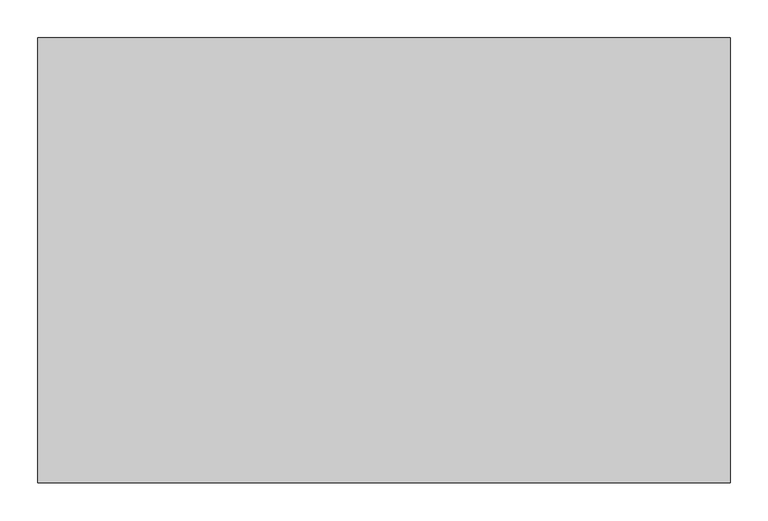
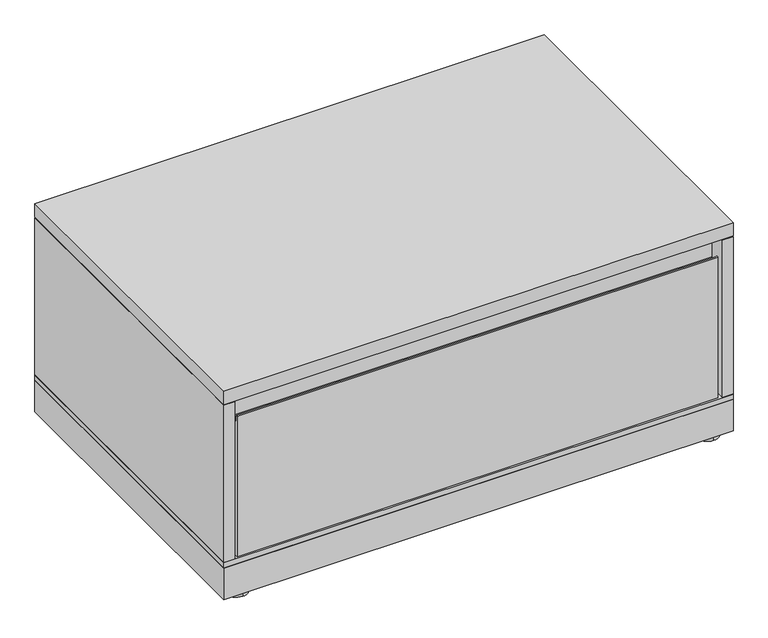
"""IFC4 building model written with IfcOpenShell, lengths in millimetres: furniture geometry, Steelcase - Universal Storage - Lateral File - 1 High - Flush Steel : Drawer - 23 1/8D x 36W."""

import ifcopenshell
import ifcopenshell.guid

model = None  # the IFC model being written
_history = None  # IfcOwnerHistory: only IFC2X3 demands one
_inside = {}  # id of a spatial element -> (the spatial element, [elements in it])
_under = {}  # id of a project, library or spatial element -> (it, [spatial elements below it])
_declared = {}  # id of a project -> (the project, [libraries it declares])
_typed = {}  # id of a type object -> (the type object, [elements of that type])
_made_of = {}  # id of a material, layer set ... -> (it, [elements and type objects made of it])


def new_model(schema):
    """Start an empty IFC model of exactly this schema.

    Asked for "IFC4X3", IfcOpenShell would pick the latest addendum, in which some entities
    have other attributes; the version numbers below select the first issue.
    IFC2X3 requires an IfcOwnerHistory on every rooted entity: one is made here for all.
    """
    global model, _history
    if schema == "IFC4X3":
        model = ifcopenshell.file(schema_version=(4, 3, 0, 0))
    else:
        model = ifcopenshell.file(schema=schema)
    _inside.clear()
    _under.clear()
    _declared.clear()
    _typed.clear()
    _made_of.clear()
    _history = None
    if model.schema == "IFC2X3":
        org = make("IfcOrganization", Name="unknown")
        user = make(
            "IfcPersonAndOrganization",
            ThePerson=make("IfcPerson", FamilyName="unknown"),
            TheOrganization=org,
        )
        app = make(
            "IfcApplication",
            ApplicationDeveloper=org,
            Version="unknown",
            ApplicationFullName="unknown",
            ApplicationIdentifier="unknown",
        )
        _history = make(
            "IfcOwnerHistory",
            OwningUser=user,
            OwningApplication=app,
            ChangeAction="ADDED",
            CreationDate=0,
        )
    return model


def make(cls, **values):
    """One entity of the class cls with the attributes given. An attribute that is None is left unset."""
    return model.create_entity(
        cls, **{name: value for name, value in values.items() if value is not None}
    )


def rooted(cls, **values):
    """An entity with a GlobalId (a new one), such as an element, a storey or a relation."""
    return make(cls, GlobalId=ifcopenshell.guid.new(), OwnerHistory=_history, **values)


def si_unit(unit_type, name, prefix=None):
    """IfcSIUnit, for example si_unit("LENGTHUNIT", "METRE", prefix="MILLI")."""
    return make("IfcSIUnit", UnitType=unit_type, Prefix=prefix, Name=name)


def assignment(units):
    """IfcUnitAssignment: the units of a project."""
    return None if units is None else make("IfcUnitAssignment", Units=units)


def point(xyz):
    """IfcCartesianPoint."""
    return None if xyz is None else make("IfcCartesianPoint", Coordinates=xyz)


def direction(xyz):
    """IfcDirection."""
    return None if xyz is None else make("IfcDirection", DirectionRatios=xyz)


def frame(location, z_axis=None, x_axis=None):
    """IfcAxis2Placement3D, a coordinate frame: its origin and axes. An axis left out is left unset."""
    return make(
        "IfcAxis2Placement3D",
        Location=point(location),
        Axis=direction(z_axis),
        RefDirection=direction(x_axis),
    )


def frame_2d(location, x_axis=None):
    """IfcAxis2Placement2D, a coordinate frame in the plane: its origin and x axis."""
    return make(
        "IfcAxis2Placement2D", Location=point(location), RefDirection=direction(x_axis)
    )


def origin():
    """The frame at (0, 0, 0) with its axes left unset."""
    return frame((0.0, 0.0, 0.0))


def origin_with_axes():
    """The frame at (0, 0, 0) with the z axis (0, 0, 1) and the x axis (1, 0, 0) written out."""
    return frame((0.0, 0.0, 0.0), z_axis=(0.0, 0.0, 1.0), x_axis=(1.0, 0.0, 0.0))


def place(relative_to, where):
    """IfcLocalPlacement: puts the frame where relative to a parent placement (None: the world)."""
    return make(
        "IfcLocalPlacement", PlacementRelTo=relative_to, RelativePlacement=where
    )


def context(
    kind, dimensions, precision=None, world=None, true_north=None, identifier=None
):
    """IfcGeometricRepresentationContext, for example the 3D "Model" context."""
    return make(
        "IfcGeometricRepresentationContext",
        ContextIdentifier=identifier,
        ContextType=kind,
        CoordinateSpaceDimension=dimensions,
        Precision=precision,
        WorldCoordinateSystem=world,
        TrueNorth=true_north,
    )


def project(units=None, contexts=None):
    """IfcProject with its units and contexts."""
    return rooted(
        "IfcProject",
        Name="project",
        RepresentationContexts=contexts,
        UnitsInContext=assignment(units),
    )


def spatial(cls, under=None, at=None, **own):
    """A site, building, storey or space (cls), placed at a placement, below another one or the project."""
    s = rooted(cls, ObjectPlacement=at, **own)
    if under is not None:
        _under.setdefault(under.id(), (under, []))[1].append(s)
    return s


def polyline(points):
    """IfcPolyline through the points."""
    return make("IfcPolyline", Points=[point(p) for p in points])


def circle_curve(where, radius):
    """IfcCircle in the frame where."""
    return make("IfcCircle", Position=where, Radius=radius)


def trimmed(basis, trim1, trim2, sense, master):
    """IfcTrimmedCurve: the piece of a basis curve between two trims."""
    return make(
        "IfcTrimmedCurve",
        BasisCurve=basis,
        Trim1=trim1,
        Trim2=trim2,
        SenseAgreement=sense,
        MasterRepresentation=master,
    )


def segment(curve, same_sense, transition):
    """IfcCompositeCurveSegment."""
    return make(
        "IfcCompositeCurveSegment",
        Transition=transition,
        SameSense=same_sense,
        ParentCurve=curve,
    )


def composite_curve(segments, self_intersect=None):
    """IfcCompositeCurve: segments joined end to end."""
    return make("IfcCompositeCurve", Segments=segments, SelfIntersect=self_intersect)


def outline(outer, holes=None, kind="AREA"):
    """IfcArbitraryClosedProfileDef: a profile drawn as a closed curve; with holes, ...WithVoids."""
    if holes is None:
        return make("IfcArbitraryClosedProfileDef", ProfileType=kind, OuterCurve=outer)
    return make(
        "IfcArbitraryProfileDefWithVoids",
        ProfileType=kind,
        OuterCurve=outer,
        InnerCurves=holes,
    )


def extrude(swept, where, along, depth):
    """IfcExtrudedAreaSolid: the profile swept, set in the frame where, extruded along a direction by depth."""
    return make(
        "IfcExtrudedAreaSolid",
        SweptArea=swept,
        Position=where,
        ExtrudedDirection=direction(along),
        Depth=depth,
    )


def shape(context_of_items, identifier, shape_type, items):
    """IfcShapeRepresentation: the items that make up one representation, for example the "Body"."""
    return make(
        "IfcShapeRepresentation",
        ContextOfItems=context_of_items,
        RepresentationIdentifier=identifier,
        RepresentationType=shape_type,
        Items=items,
    )


def source(mapping_origin, context_of_items, identifier, shape_type, items):
    """IfcRepresentationMap: a shape defined once, which mapped items show again and again."""
    return make(
        "IfcRepresentationMap",
        MappingOrigin=mapping_origin,
        MappedRepresentation=shape(context_of_items, identifier, shape_type, items),
    )


def transform(
    local_origin,
    x_axis=None,
    y_axis=None,
    z_axis=None,
    scale=None,
    scale2=None,
    scale3=None,
    uniform=True,
):
    """IfcCartesianTransformationOperator3D, or its non-uniform kind. x_axis, y_axis, z_axis: its Axis1, 2, 3."""
    if uniform:
        return make(
            "IfcCartesianTransformationOperator3D",
            Axis1=direction(x_axis),
            Axis2=direction(y_axis),
            LocalOrigin=point(local_origin),
            Scale=scale,
            Axis3=direction(z_axis),
        )
    return make(
        "IfcCartesianTransformationOperator3DnonUniform",
        Axis1=direction(x_axis),
        Axis2=direction(y_axis),
        LocalOrigin=point(local_origin),
        Scale=scale,
        Axis3=direction(z_axis),
        Scale2=scale2,
        Scale3=scale3,
    )


def mapped(mapping_source, mapping_target):
    """IfcMappedItem: shows the shape of a source again, moved by a transform."""
    return make(
        "IfcMappedItem", MappingSource=mapping_source, MappingTarget=mapping_target
    )


def made_of(thing, what):
    """Note that an element or type object is made of a material, layer set ...; save() writes the relation."""
    if what is not None:
        _made_of.setdefault(what.id(), (what, []))[1].append(thing)
    return thing


def element(
    cls,
    number,
    at=None,
    inside=None,
    cuts=None,
    type_object=None,
    material=None,
    context=None,
    identifier="Body",
    shape_type=None,
    held_by="IfcProductDefinitionShape",
    body=None,
    shapes=None,
    **own,
):
    """One element of the class cls, such as IfcWall. Its Tag is "e" and its number.

    at: its placement. inside: the storey or other place that contains it. cuts: it is an
    opening in that element (IfcRelVoidsElement). A single representation is given by context,
    identifier, shape_type and body (its items); several are given by shapes. held_by: the class
    of the entity that holds the representations. save() writes the other relations.
    """
    e = rooted(cls, Tag="e%d" % number, ObjectPlacement=at, **own)
    if body is not None:
        shapes = [shape(context, identifier, shape_type, body)]
    if shapes is not None:
        e.Representation = make(held_by, Representations=shapes)
    if inside is not None:
        _inside.setdefault(inside.id(), (inside, []))[1].append(e)
    if cuts is not None:
        rooted(
            "IfcRelVoidsElement", RelatingBuildingElement=cuts, RelatedOpeningElement=e
        )
    if type_object is not None:
        _typed.setdefault(type_object.id(), (type_object, []))[1].append(e)
    return made_of(e, material)


def aggregate(whole, parts):
    """IfcRelAggregates: a whole, such as a stair, and the parts it consists of."""
    return rooted("IfcRelAggregates", RelatingObject=whole, RelatedObjects=parts)


def save(model, path):
    """Write the relations noted so far, then the file.

    IfcRelAggregates (storeys below a building ...), IfcRelContainedInSpatialStructure (elements
    in a storey), IfcRelDefinesByType, IfcRelAssociatesMaterial and IfcRelDeclares: one each for
    every whole, place, type object, material and project.
    """
    for whole, parts in _under.values():
        aggregate(whole, parts)
    for where, things in _inside.values():
        rooted(
            "IfcRelContainedInSpatialStructure",
            RelatedElements=things,
            RelatingStructure=where,
        )
    for kind, things in _typed.values():
        rooted("IfcRelDefinesByType", RelatedObjects=things, RelatingType=kind)
    for what, things in _made_of.values():
        rooted("IfcRelAssociatesMaterial", RelatedObjects=things, RelatingMaterial=what)
    for by, libraries in _declared.values():
        rooted("IfcRelDeclares", RelatingContext=by, RelatedDefinitions=libraries)
    model.write(path)


def furniture_055a7e3c(model_context):
    return source(origin(), model_context, "Body", "SweptSolid", [
        extrude(outline(polyline([(914.4, 587.502), (914.4, 0.0), (0.0, 0.0), (0.0, 587.502), (914.4, 587.502)])), frame((0.0, 0.0, 6.3500002), z_axis=(0.0, 0.0, 1.0), x_axis=(1.0, 0.0, 0.0)), (0.0, 0.0, 1.0), 59.6899998),
        extrude(outline(composite_curve([segment(trimmed(circle_curve(frame_2d((879.7290058, 565.1653666)), 20.32), [point((879.7290058, 544.8453666))], [point((879.7290058, 585.4853666))], False, "CARTESIAN"), True, "CONTINUOUS"), segment(trimmed(circle_curve(frame_2d((879.7290058, 565.1653666)), 20.32), [point((879.7290058, 585.4853666))], [point((879.7290058, 544.8453666))], False, "CARTESIAN"), True, "CONTINUOUS")], self_intersect=False)), origin_with_axes(), (0.0, 0.0, 1.0), 6.3500002),
        extrude(outline(composite_curve([segment(trimmed(circle_curve(frame_2d((879.7290058, 20.7491455)), 20.32), [point((879.7290058, 0.4291455))], [point((879.7290058, 41.0691455))], False, "CARTESIAN"), True, "CONTINUOUS"), segment(trimmed(circle_curve(frame_2d((879.7290058, 20.7491455)), 20.32), [point((879.7290058, 41.0691455))], [point((879.7290058, 0.4291455))], False, "CARTESIAN"), True, "CONTINUOUS")], self_intersect=False)), origin_with_axes(), (0.0, 0.0, 1.0), 6.3500002),
        extrude(outline(composite_curve([segment(trimmed(circle_curve(frame_2d((34.29, 565.1653666)), 20.32), [point((34.29, 585.4853666))], [point((34.29, 544.8453666))], False, "CARTESIAN"), True, "CONTINUOUS"), segment(trimmed(circle_curve(frame_2d((34.29, 565.1653666)), 20.32), [point((34.29, 544.8453666))], [point((34.29, 585.4853666))], False, "CARTESIAN"), True, "CONTINUOUS")], self_intersect=False)), origin_with_axes(), (0.0, 0.0, 1.0), 6.3500002),
        extrude(outline(composite_curve([segment(trimmed(circle_curve(frame_2d((34.29, 20.7491455)), 20.32), [point((34.29, 41.0691455))], [point((34.29, 0.4291455))], False, "CARTESIAN"), True, "CONTINUOUS"), segment(trimmed(circle_curve(frame_2d((34.29, 20.7491455)), 20.32), [point((34.29, 0.4291455))], [point((34.29, 41.0691455))], False, "CARTESIAN"), True, "CONTINUOUS")], self_intersect=False)), origin_with_axes(), (0.0, 0.0, 1.0), 6.3500002),
        extrude(outline(composite_curve([segment(polyline([(25.4254103, 76.2), (3.2004224, 76.2), (3.2004224, 342.8171562)]), True, "CONTINUOUS"), segment(trimmed(circle_curve(frame_2d((4.3477111, 342.8171562)), 1.1472887), [point((3.2004224, 342.8171562))], [point((5.4949998, 342.8171562))], False, "CARTESIAN"), True, "CONTINUOUS"), segment(polyline([(5.4949998, 342.8171562), (6.7505036, 332.5918984)]), True, "CONTINUOUS"), segment(trimmed(circle_curve(frame_2d((10.035785, 332.9952802)), 3.3099532), [point((6.7505036, 332.5918984))], [point((10.035785, 329.685327))], True, "CARTESIAN"), True, "CONTINUOUS"), segment(polyline([(10.035785, 329.685327), (17.8753095, 329.685327)]), True, "CONTINUOUS"), segment(trimmed(circle_curve(frame_2d((17.8753095, 332.8666173)), 3.1812904), [point((17.8753095, 329.685327))], [point((21.0565999, 332.8666173))], True, "CARTESIAN"), True, "CONTINUOUS"), segment(polyline([(21.0565999, 332.8666173), (21.0565999, 373.5831925)]), True, "CONTINUOUS"), segment(trimmed(circle_curve(frame_2d((21.8270776, 373.5831925)), 0.7704777), [point((21.0565999, 373.5831925))], [point((21.5798734, 374.3129363))], False, "CARTESIAN"), True, "CONTINUOUS"), segment(trimmed(circle_curve(frame_2d((22.5148866, 371.5527885)), 2.9142178), [point((21.5798734, 374.3129363))], [point((25.4254103, 371.6994776))], False, "CARTESIAN"), True, "CONTINUOUS"), segment(polyline([(25.4254103, 371.6994776), (25.4254103, 76.2)]), True, "CONTINUOUS")], self_intersect=False)), frame((25.908, 0.0, 0.0), z_axis=(1.0, 0.0, 0.0), x_axis=(0.0, 1.0, 0.0)), (0.0, 0.0, 1.0), 862.584),
        extrude(outline(polyline([(914.4, 0.0), (0.0, 0.0), (0.0, 587.502), (914.4, 587.502), (914.4, 0.0)])), frame((0.0, 0.0, 376.3010136), z_axis=(0.0, 0.0, 1.0), x_axis=(1.0, 0.0, 0.0)), (0.0, 0.0, 1.0), 25.3999758),
        extrude(outline(polyline([(914.4, 0.0), (0.0, 0.0), (0.0, 587.502), (914.4, 587.502), (914.4, 0.0)])), frame((0.0, 0.0, 66.04), z_axis=(0.0, 0.0, 1.0), x_axis=(1.0, 0.0, 0.0)), (0.0, 0.0, 1.0), 10.16),
        extrude(outline(polyline([(0.0, 587.502), (914.4, 587.502), (914.4, 0.0), (894.8419641, 0.0), (894.8419641, 586.74), (19.558, 586.74), (19.558, 0.0), (0.0, 0.0), (0.0, 587.502)])), frame((0.0, 0.0, 76.2), z_axis=(0.0, 0.0, 1.0), x_axis=(1.0, 0.0, 0.0)), (0.0, 0.0, 1.0), 298.577),
    ])


if __name__ == "__main__":
    model = new_model("IFC4")
    model_context = context("Model", 3, world=origin())
    ifc_project = project(units=[si_unit("LENGTHUNIT", "METRE", prefix="MILLI")], contexts=[model_context])
    site = spatial("IfcSite", under=ifc_project)
    building = spatial("IfcBuilding", under=site)
    placement = place(None, origin())
    furniture_shape = furniture_055a7e3c(model_context)
    element("IfcFurniture", 1, ObjectType="Steelcase - Universal Storage - Lateral File - 1 High - Flush Steel : Drawer - 23 1/8D x 36W", at=placement, inside=building, context=model_context, shape_type="MappedRepresentation", body=[
        mapped(furniture_shape, transform((0.0, 0.0, 0.0), x_axis=(1.0, 0.0, 0.0), y_axis=(0.0, 1.0, 0.0), z_axis=(0.0, 0.0, 1.0))),
    ])
    save(model, "model.ifc")
